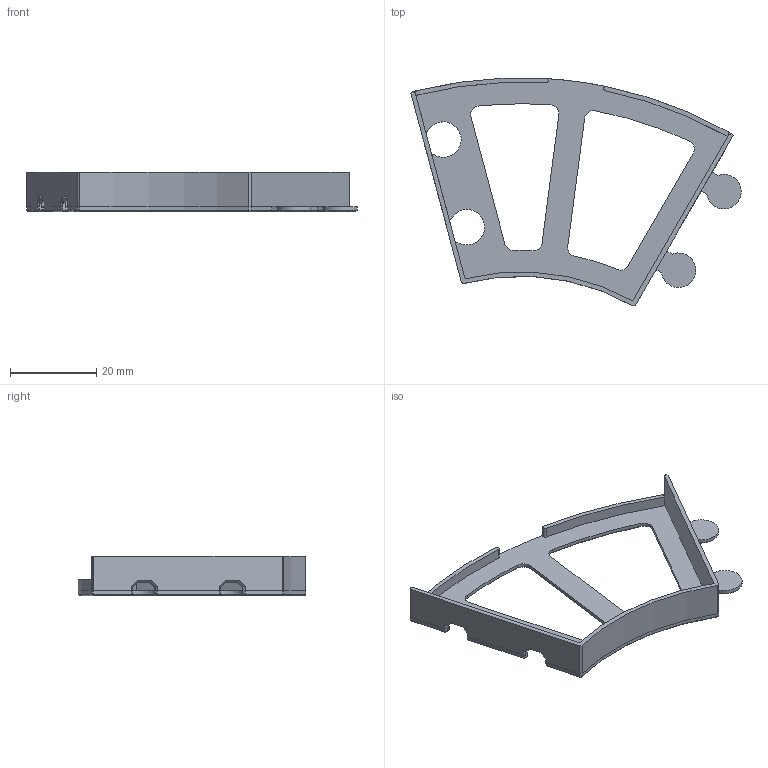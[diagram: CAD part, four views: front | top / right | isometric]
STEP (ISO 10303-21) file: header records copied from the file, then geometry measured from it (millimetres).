
FILE_DESCRIPTION(('FreeCAD Model'),'2;1');
FILE_NAME( 'D:/GitRepo/CAD-Design/FreeCAD/Spool_Organizer/Frame_45.V03.step', '2017-11-26T14:57:23',('Author'),(''), 'Open CASCADE STEP processor 7.1','FreeCAD','Unknown');
FILE_SCHEMA(('AUTOMOTIVE_DESIGN { 1 0 10303 214 1 1 1 1 }'));
Length unit declared in the file: millimetre
Products named in the file (1): Frame_C.10.Chamfer
Bounding box: 76.4 x 52.68 x 9.2 mm (x, y, z)
Volume: 2981 mm3; surface area: 5927.3 mm2
Topology: 1 solids, 1 shells, 149 faces, 373 edges, 222 vertices
Faces by surface type: plane 91, cylinder 34, cone 22, bspline 2
Entity records: 9626 total; most frequent: CARTESIAN_POINT 2320, DIRECTION 1327, LINE 824, VECTOR 824, ORIENTED_EDGE 746, PCURVE 746, DEFINITIONAL_REPRESENTATION 746, EDGE_CURVE 373
